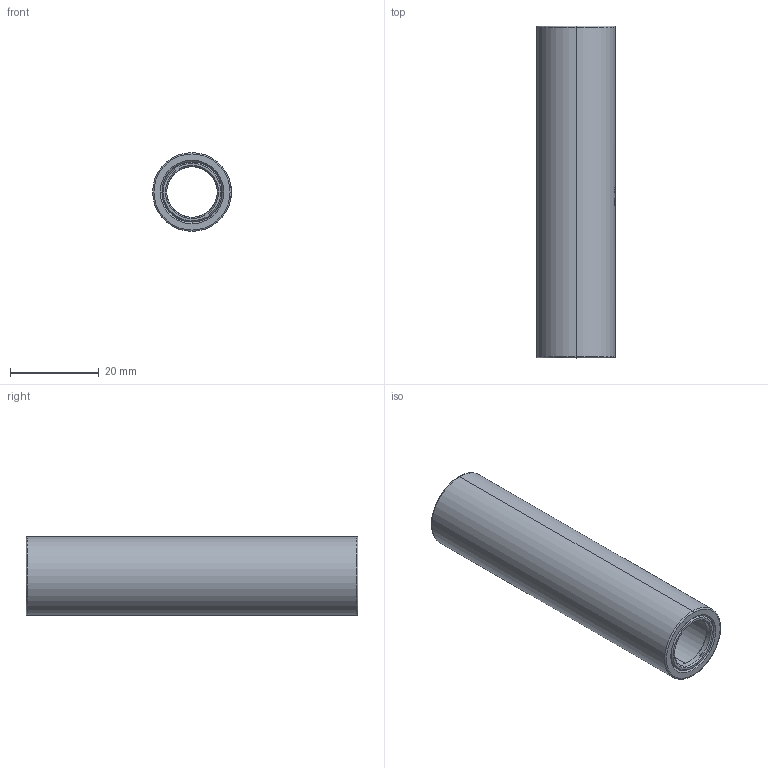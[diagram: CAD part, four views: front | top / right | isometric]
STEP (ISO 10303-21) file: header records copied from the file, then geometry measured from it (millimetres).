
FILE_DESCRIPTION (( 'STEP AP203' ), '1' );
FILE_NAME ('CSSM05-75B.STEP', '2025-08-29T03:15:17', ( '' ), ( '' ), 'SwSTEP 2.0', 'SolidWorks 2020', '' );
FILE_SCHEMA (( 'CONFIG_CONTROL_DESIGN' ));
Length unit declared in the file: millimetre
Products named in the file (1): CSSM05-75B
Bounding box: 17.8 x 75 x 17.8 mm (x, y, z)
Volume: 7904.8 mm3; surface area: 7956.5 mm2
Topology: 3 solids, 3 shells, 376 faces, 1031 edges, 682 vertices
Faces by surface type: bspline 246, plane 71, cylinder 35, cone 20, torus 4
Entity records: 21581 total; most frequent: CARTESIAN_POINT 14149, ORIENTED_EDGE 2062, EDGE_CURVE 1031, B_SPLINE_CURVE_WITH_KNOTS 787, VERTEX_POINT 682, DIRECTION 608, EDGE_LOOP 403, ADVANCED_FACE 376
